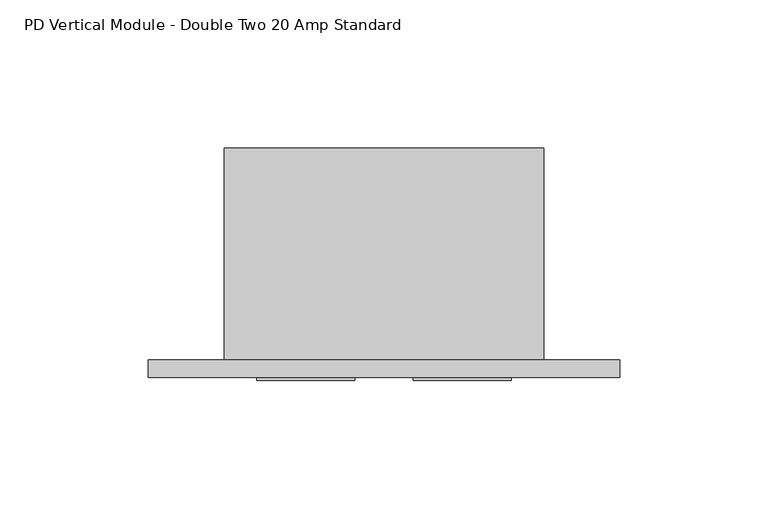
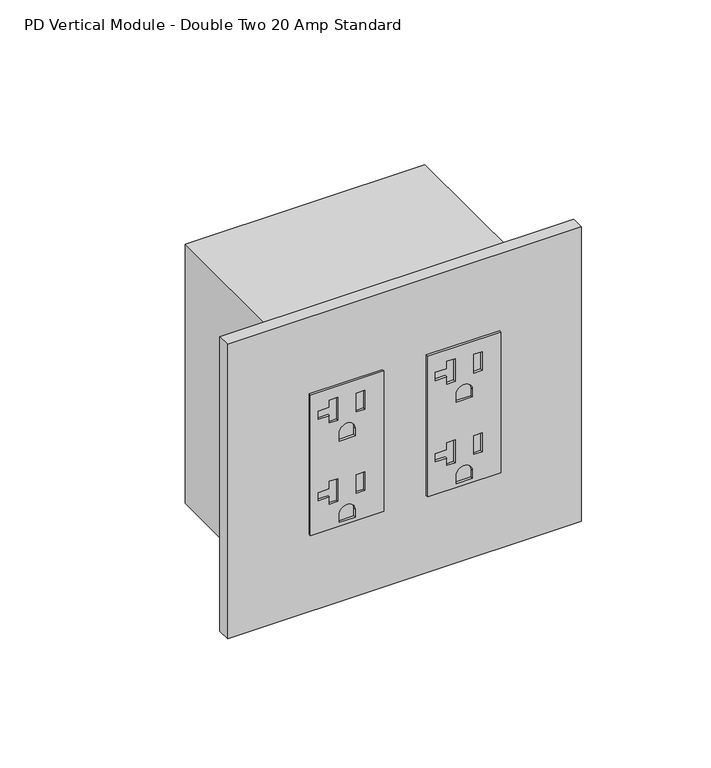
"""IFC4 building model written with IfcOpenShell, lengths in millimetres: proxy geometry, Electrical-Teknion-EPDMD_Vertical_Power_Data_Double-R2019 : PD Vertical Module - Double Two 20 Amp Standard."""

from ifc_helpers import new_model, si_unit, point, frame, frame_2d, origin, place, context, project, spatial, polyline, circle_curve, trimmed, segment, composite_curve, outline, extrude, source, transform, mapped, element, save


def pd_vertical_module_double_two_20_amp_standard_31f9a75b(model_context):
    return source(origin(), model_context, "Body", "SweptSolid", [
        extrude(outline(polyline([(490.6772, 96.9264), (490.6772, 63.9318), (423.7228, 63.9318), (423.7228, 96.9264), (490.6772, 96.9264)]), holes=[polyline([(443.0776, 72.4408), (446.5574, 72.4408), (446.5574, 76.2762), (435.737, 76.2762), (435.737, 72.4408), (439.2168, 72.4408), (439.2168, 67.3354), (443.0776, 67.3354), (443.0776, 72.4408)]), polyline([(445.5795, 88.4428), (436.7149, 88.4428), (436.7149, 84.6074), (445.5795, 84.6074), (445.5795, 88.4428)]), composite_curve([segment(polyline([(429.1838, 84.0613), (425.5516, 84.0613), (425.5516, 76.7969), (429.1838, 76.7969)]), True, "CONTINUOUS"), segment(trimmed(circle_curve(frame_2d((429.1838, 80.4291)), 3.6322), [point((429.1838, 76.7969))], [point((429.1838, 84.0613))], True, "CARTESIAN"), True, "CONTINUOUS")], self_intersect=False), polyline([(481.8126, 72.4408), (485.2924, 72.4408), (485.2924, 76.2762), (474.472, 76.2762), (474.472, 72.4408), (477.9518, 72.4408), (477.9518, 67.3354), (481.8126, 67.3354), (481.8126, 72.4408)]), polyline([(484.3145, 88.4428), (475.4499, 88.4428), (475.4499, 84.6074), (484.3145, 84.6074), (484.3145, 88.4428)]), composite_curve([segment(polyline([(467.9188, 84.0613), (464.2866, 84.0613), (464.2866, 76.7969), (467.9188, 76.7969)]), True, "CONTINUOUS"), segment(trimmed(circle_curve(frame_2d((467.9188, 80.4291)), 3.6322), [point((467.9188, 76.7969))], [point((467.9188, 84.0613))], True, "CARTESIAN"), True, "CONTINUOUS")], self_intersect=False)]), frame((0.0, -6.9294746, 0.0), z_axis=(0.0, 1.0, 0.0), x_axis=(0.0, 0.0, 1.0)), (0.0, 0.0, 1.0), 1.0366746),
        extrude(outline(polyline([(490.6772, 44.0944), (490.6772, 11.0998), (423.7228, 11.0998), (423.7228, 44.0944), (490.6772, 44.0944)]), holes=[polyline([(485.2924, 23.4442), (474.472, 23.4442), (474.472, 19.6088), (477.9518, 19.6088), (477.9518, 14.5034), (481.8126, 14.5034), (481.8126, 19.6088), (485.2924, 19.6088), (485.2924, 23.4442)]), polyline([(484.3145, 35.6108), (475.4499, 35.6108), (475.4499, 31.7754), (484.3145, 31.7754), (484.3145, 35.6108)]), composite_curve([segment(polyline([(464.2866, 31.2293), (464.2866, 23.9649), (467.9188, 23.9649)]), True, "CONTINUOUS"), segment(trimmed(circle_curve(frame_2d((467.9188, 27.5971)), 3.6322), [point((467.9188, 23.9649))], [point((467.9188, 31.2293))], True, "CARTESIAN"), True, "CONTINUOUS"), segment(polyline([(467.9188, 31.2293), (464.2866, 31.2293)]), True, "CONTINUOUS")], self_intersect=False), polyline([(446.5574, 23.4442), (435.737, 23.4442), (435.737, 19.6088), (439.2168, 19.6088), (439.2168, 14.5034), (443.0776, 14.5034), (443.0776, 19.6088), (446.5574, 19.6088), (446.5574, 23.4442)]), polyline([(445.5795, 35.6108), (436.7149, 35.6108), (436.7149, 31.7754), (445.5795, 31.7754), (445.5795, 35.6108)]), composite_curve([segment(polyline([(425.5516, 31.2293), (425.5516, 23.9649), (429.1838, 23.9649)]), True, "CONTINUOUS"), segment(trimmed(circle_curve(frame_2d((429.1838, 27.5971)), 3.6322), [point((429.1838, 23.9649))], [point((429.1838, 31.2293))], True, "CARTESIAN"), True, "CONTINUOUS"), segment(polyline([(429.1838, 31.2293), (425.5516, 31.2293)]), True, "CONTINUOUS")], self_intersect=False)]), frame((0.0, -6.9294746, 0.0), z_axis=(0.0, 1.0, 0.0), x_axis=(0.0, 0.0, 1.0)), (0.0, 0.0, 1.0), 1.0366746),
        extrude(outline(polyline([(-25.6794, 0.0), (133.7056, 0.0), (133.7056, -5.8928), (-25.6794, -5.8928), (-25.6794, 0.0)])), frame((0.0, 0.0, 386.9302229), z_axis=(0.0, 0.0, 1.0), x_axis=(1.0, 0.0, 0.0)), (0.0, 0.0, 1.0), 140.3604),
        extrude(outline(polyline([(108.0262, 0.0), (0.0, 0.0), (0.0, 71.7296), (108.0262, 71.7296), (108.0262, 0.0)])), frame((0.0, 0.0, 395.3630229), z_axis=(0.0, 0.0, 1.0), x_axis=(1.0, 0.0, 0.0)), (0.0, 0.0, 1.0), 123.4948),
    ])


if __name__ == "__main__":
    model = new_model("IFC4")
    model_context = context("Model", 3, world=origin())
    ifc_project = project(units=[si_unit("LENGTHUNIT", "METRE", prefix="MILLI")], contexts=[model_context])
    site = spatial("IfcSite", under=ifc_project)
    building = spatial("IfcBuilding", under=site)
    placement = place(None, origin())
    pd_vertical_module_double_two_20_amp_standard_shape = pd_vertical_module_double_two_20_amp_standard_31f9a75b(model_context)
    element("IfcBuildingElementProxy", 1, Name="Electrical-Teknion-EPDMD_Vertical_Power_Data_Double-R2019 : PD Vertical Module - Double Two 20 Amp Standard", ObjectType="Electrical-Teknion-EPDMD_Vertical_Power_Data_Double-R2019 : PD Vertical Module - Double Two 20 Amp Standard", at=placement, inside=building, context=model_context, shape_type="MappedRepresentation", body=[
        mapped(pd_vertical_module_double_two_20_amp_standard_shape, transform((0.0, 0.0, 0.0), x_axis=(1.0, 0.0, 0.0), y_axis=(0.0, 1.0, 0.0), z_axis=(0.0, 0.0, 1.0))),
    ])
    save(model, "model.ifc")
